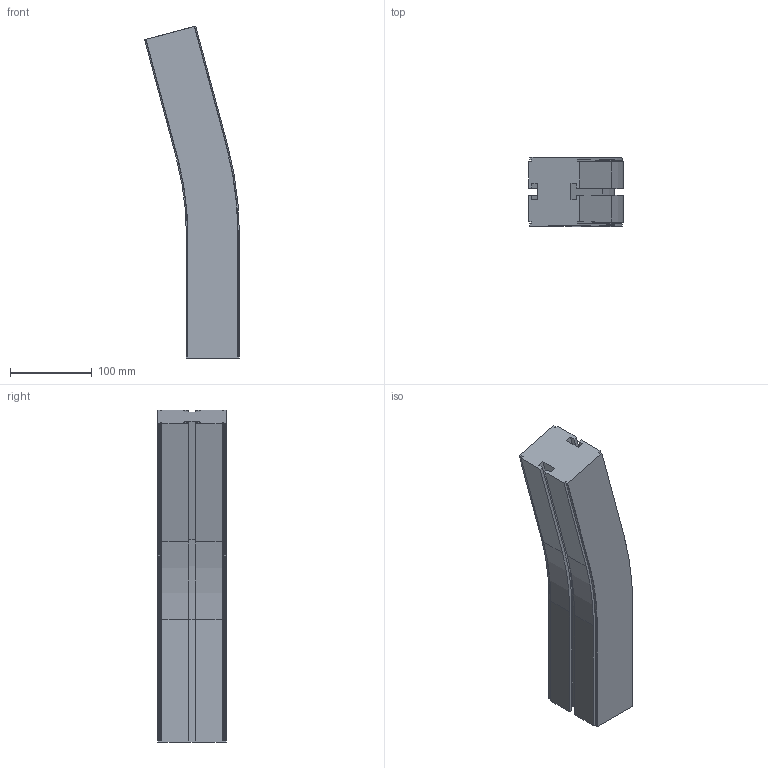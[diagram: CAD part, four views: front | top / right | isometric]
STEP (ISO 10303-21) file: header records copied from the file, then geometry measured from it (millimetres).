
FILE_DESCRIPTION (( 'STEP AP214' ), '1' );
FILE_NAME ('CS SL Horizontaalbocht.65 15° R400.STEP', '2017-02-08T07:35:30', ( '' ), ( '' ), 'SwSTEP 2.0', 'SolidWorks 2016', '' );
FILE_SCHEMA (( 'AUTOMOTIVE_DESIGN' ));
Length unit declared in the file: millimetre
Products named in the file (1): CS SL Horizontaalbocht.65 15° R400
Bounding box: 116.35 x 84 x 406.83 mm (x, y, z)
Volume: 2045708.6 mm3; surface area: 173599.8 mm2
Topology: 1 solids, 1 shells, 98 faces, 272 edges, 176 vertices
Faces by surface type: plane 72, cylinder 18, cone 8
Entity records: 3126 total; most frequent: CARTESIAN_POINT 547, ORIENTED_EDGE 544, DIRECTION 514, EDGE_CURVE 272, LINE 228, VECTOR 228, VERTEX_POINT 176, AXIS2_PLACEMENT_3D 143
